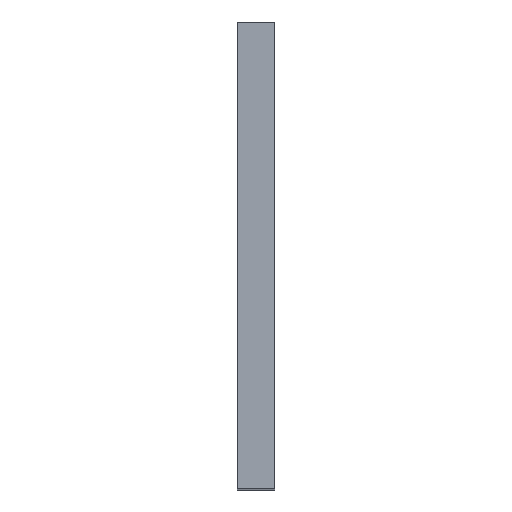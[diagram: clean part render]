
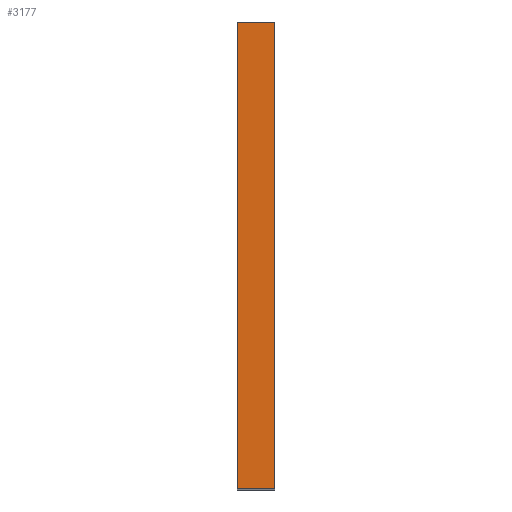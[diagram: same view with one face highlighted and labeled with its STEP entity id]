
A CAD part, top view. The second image highlights one B-rep face of the part: STEP entity #3177.
In plain terms, the highlighted planar face has unit normal (0, 0, 1).
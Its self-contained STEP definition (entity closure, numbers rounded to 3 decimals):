
#104 = DIRECTION ( 'NONE',  ( 0., -1., 0. ) ) ;
#172 = VECTOR ( 'NONE', #442, 1000. ) ;
#323 = PLANE ( 'NONE',  #909 ) ;
#442 = DIRECTION ( 'NONE',  ( 0., -1., 0. ) ) ;
#533 = CARTESIAN_POINT ( 'NONE',  ( 12., 1782.912, -355.983 ) ) ;
#663 = ORIENTED_EDGE ( 'NONE', *, *, #4180, .F. ) ;
#825 = EDGE_CURVE ( 'NONE', #2392, #2624, #4317, .T. ) ;
#909 = AXIS2_PLACEMENT_3D ( 'NONE', #3868, #3013, #3813 ) ;
#1290 = CARTESIAN_POINT ( 'NONE',  ( 12., 1632.912, -355.983 ) ) ;
#1324 = VECTOR ( 'NONE', #3140, 1000. ) ;
#1696 = LINE ( 'NONE', #4856, #172 ) ;
#1795 = CARTESIAN_POINT ( 'NONE',  ( 12., 1782.912, -355.983 ) ) ;
#1948 = VECTOR ( 'NONE', #104, 1000. ) ;
#1963 = VECTOR ( 'NONE', #4648, 1000. ) ;
#2011 = CARTESIAN_POINT ( 'NONE',  ( 0., 1782.912, -355.983 ) ) ;
#2169 = EDGE_LOOP ( 'NONE', ( #2609, #663, #3129, #2447 ) ) ;
#2392 = VERTEX_POINT ( 'NONE', #1795 ) ;
#2447 = ORIENTED_EDGE ( 'NONE', *, *, #825, .T. ) ;
#2609 = ORIENTED_EDGE ( 'NONE', *, *, #5214, .T. ) ;
#2624 = VERTEX_POINT ( 'NONE', #2011 ) ;
#2626 = VERTEX_POINT ( 'NONE', #4189 ) ;
#3013 = DIRECTION ( 'NONE',  ( 0., 0., -1. ) ) ;
#3129 = ORIENTED_EDGE ( 'NONE', *, *, #4340, .F. ) ;
#3140 = DIRECTION ( 'NONE',  ( -1., 0., 0. ) ) ;
#3177 = ADVANCED_FACE ( 'NONE', ( #4388 ), #323, .F. ) ;
#3344 = LINE ( 'NONE', #1290, #1324 ) ;
#3813 = DIRECTION ( 'NONE',  ( -1., 0., 0. ) ) ;
#3868 = CARTESIAN_POINT ( 'NONE',  ( 12., 1782.912, -355.983 ) ) ;
#4180 = EDGE_CURVE ( 'NONE', #5198, #2626, #3344, .T. ) ;
#4189 = CARTESIAN_POINT ( 'NONE',  ( 0., 1632.912, -355.983 ) ) ;
#4317 = LINE ( 'NONE', #4494, #1963 ) ;
#4340 = EDGE_CURVE ( 'NONE', #2392, #5198, #4444, .T. ) ;
#4388 = FACE_OUTER_BOUND ( 'NONE', #2169, .T. ) ;
#4444 = LINE ( 'NONE', #533, #1948 ) ;
#4494 = CARTESIAN_POINT ( 'NONE',  ( 12., 1782.912, -355.983 ) ) ;
#4500 = CARTESIAN_POINT ( 'NONE',  ( 12., 1632.912, -355.983 ) ) ;
#4648 = DIRECTION ( 'NONE',  ( -1., 0., 0. ) ) ;
#4856 = CARTESIAN_POINT ( 'NONE',  ( 0., 1782.912, -355.983 ) ) ;
#5198 = VERTEX_POINT ( 'NONE', #4500 ) ;
#5214 = EDGE_CURVE ( 'NONE', #2624, #2626, #1696, .T. ) ;
